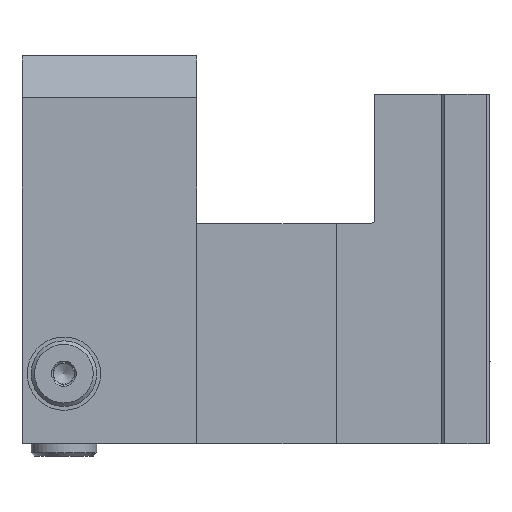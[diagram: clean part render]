
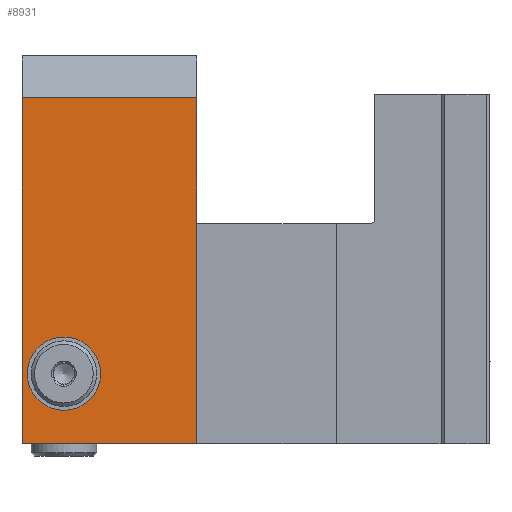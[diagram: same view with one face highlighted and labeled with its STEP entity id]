
A CAD part, left-side view. The second image highlights one B-rep face of the part: STEP entity #8931.
In plain terms, the highlighted planar face has unit normal (-1, 0, 0).
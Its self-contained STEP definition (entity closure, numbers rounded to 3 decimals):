
#186=FACE_BOUND('',#1619,.T.);
#714=PLANE('',#9389);
#1102=FACE_OUTER_BOUND('',#1618,.T.);
#1618=EDGE_LOOP('',(#7015,#7016,#7017,#7018));
#1619=EDGE_LOOP('',(#7019,#7020));
#2236=LINE('',#14759,#2854);
#2240=LINE('',#14768,#2858);
#2268=LINE('',#15030,#2886);
#2269=LINE('',#15032,#2887);
#2854=VECTOR('',#10498,10.);
#2858=VECTOR('',#10506,10.);
#2886=VECTOR('',#10710,10.);
#2887=VECTOR('',#10713,10.);
#3130=CIRCLE('',#9341,10.5);
#3131=CIRCLE('',#9342,10.5);
#3851=VERTEX_POINT('',#14752);
#3854=VERTEX_POINT('',#14757);
#3857=VERTEX_POINT('',#14767);
#3891=VERTEX_POINT('',#14938);
#3892=VERTEX_POINT('',#14939);
#3920=VERTEX_POINT('',#15028);
#4937=EDGE_CURVE('',#3854,#3851,#2236,.T.);
#4941=EDGE_CURVE('',#3851,#3857,#2240,.T.);
#4987=EDGE_CURVE('',#3891,#3892,#3130,.T.);
#4988=EDGE_CURVE('',#3892,#3891,#3131,.T.);
#5030=EDGE_CURVE('',#3920,#3857,#2268,.T.);
#5031=EDGE_CURVE('',#3920,#3854,#2269,.T.);
#7015=ORIENTED_EDGE('',*,*,#4937,.F.);
#7016=ORIENTED_EDGE('',*,*,#5031,.F.);
#7017=ORIENTED_EDGE('',*,*,#5030,.T.);
#7018=ORIENTED_EDGE('',*,*,#4941,.F.);
#7019=ORIENTED_EDGE('',*,*,#4987,.T.);
#7020=ORIENTED_EDGE('',*,*,#4988,.T.);
#8931=ADVANCED_FACE('',(#1102,#186),#714,.T.);
#9341=AXIS2_PLACEMENT_3D('',#14940,#10600,#10601);
#9342=AXIS2_PLACEMENT_3D('',#14941,#10602,#10603);
#9389=AXIS2_PLACEMENT_3D('',#15031,#10711,#10712);
#10498=DIRECTION('',(0.,-1.,0.));
#10506=DIRECTION('',(0.,0.,-1.));
#10600=DIRECTION('center_axis',(1.,0.,0.));
#10601=DIRECTION('ref_axis',(0.,0.,
-1.));
#10602=DIRECTION('center_axis',(1.,0.,0.));
#10603=DIRECTION('ref_axis',(0.,0.,
-1.));
#10710=DIRECTION('',(0.,-1.,0.));
#10711=DIRECTION('center_axis',(-1.,0.,0.));
#10712=DIRECTION('ref_axis',(0.,0.,
-1.));
#10713=DIRECTION('',(0.,0.,1.));
#14752=CARTESIAN_POINT('',(-27.428,44.578,49.));
#14757=CARTESIAN_POINT('',(-27.428,94.578,49.));
#14759=CARTESIAN_POINT('',(-27.428,94.578,49.));
#14767=CARTESIAN_POINT('',(-27.428,44.578,-50.));
#14768=CARTESIAN_POINT('',(-27.428,44.578,-50.));
#14938=CARTESIAN_POINT('',(-27.428,82.578,-40.5));
#14939=CARTESIAN_POINT('',(-27.428,82.578,-19.5));
#14940=CARTESIAN_POINT('Origin',(-27.428,82.578,-30.));
#14941=CARTESIAN_POINT('Origin',(-27.428,82.578,-30.));
#15028=CARTESIAN_POINT('',(-27.428,94.578,-50.));
#15030=CARTESIAN_POINT('',(-27.428,94.578,-50.));
#15031=CARTESIAN_POINT('Origin',(-27.428,94.578,61.));
#15032=CARTESIAN_POINT('',(-27.428,94.578,-50.));
